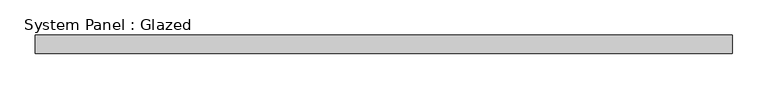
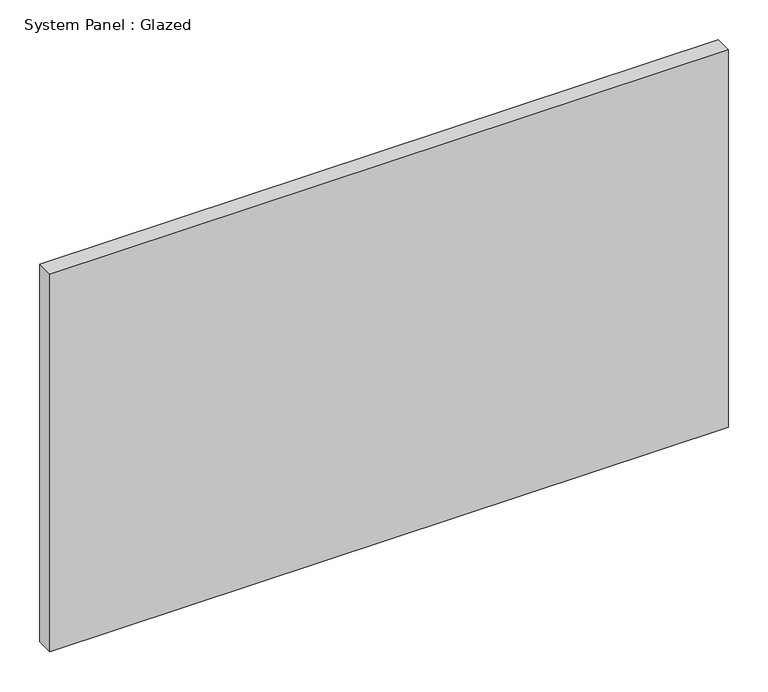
"""IFC4 building model written with IfcOpenShell, lengths in millimetres: plate geometry, System Panel : Glazed."""

from ifc_helpers import new_model, si_unit, origin, origin_with_axes, place, context, project, spatial, polyline, outline, extrude, source, transform, mapped, element, save


def system_panel_glazed_ae41f1da(model_context):
    return source(origin(), model_context, "Body", "SweptSolid", [
        extrude(outline(polyline([(490.9910714, 19.05), (-490.9910714, 19.05), (-490.9910714, 44.45), (490.9910714, 44.45), (490.9910714, 19.05)])), origin_with_axes(), (0.0, 0.0, 1.0), 577.85),
    ])


if __name__ == "__main__":
    model = new_model("IFC4")
    model_context = context("Model", 3, world=origin())
    ifc_project = project(units=[si_unit("LENGTHUNIT", "METRE", prefix="MILLI")], contexts=[model_context])
    site = spatial("IfcSite", under=ifc_project)
    building = spatial("IfcBuilding", under=site)
    placement = place(None, origin())
    system_panel_glazed_shape = system_panel_glazed_ae41f1da(model_context)
    element("IfcPlate", 1, ObjectType="System Panel : Glazed", at=placement, inside=building, context=model_context, shape_type="MappedRepresentation", body=[
        mapped(system_panel_glazed_shape, transform((0.0, 0.0, 0.0), x_axis=(1.0, 0.0, 0.0), y_axis=(0.0, 1.0, 0.0), z_axis=(0.0, 0.0, 1.0))),
    ])
    save(model, "model.ifc")
